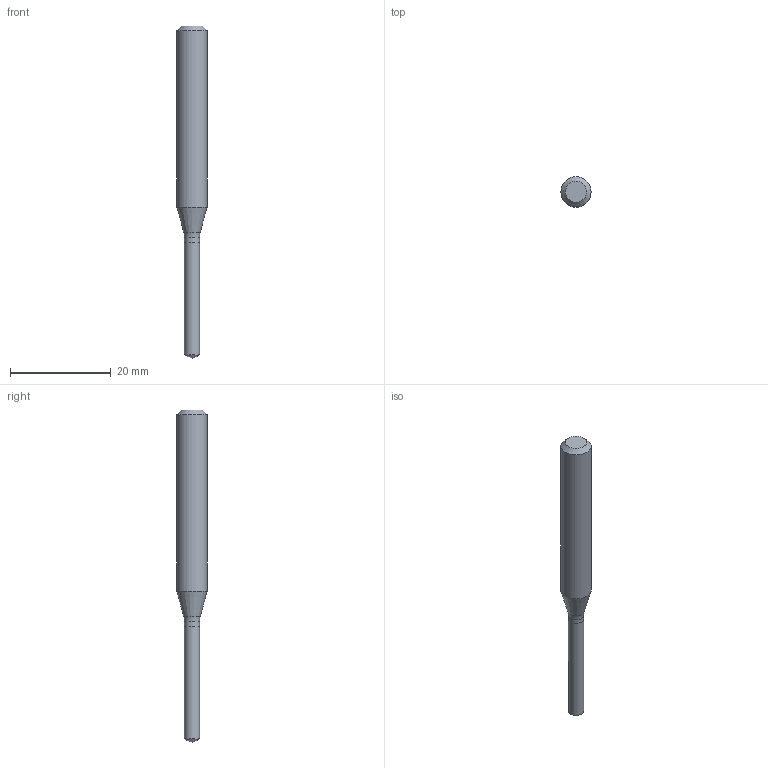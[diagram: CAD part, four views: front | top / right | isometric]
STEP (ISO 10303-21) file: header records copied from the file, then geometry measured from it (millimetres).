
FILE_DESCRIPTION(/* description */ (''),/* implementation_level */ '2;1');
FILE_NAME(/* name */ '60679901_cgr_000~02_214.stp',/* time_stamp */ '2022-02-03T08:48:14-05:00',/* author */ (''),/* organization */ (''),/* preprocessor_version */ 'ST-DEVELOPER v16.7',/* originating_system */ 'SIEMENS PLM Software NX 12.0',/* authorisation */ '');
FILE_SCHEMA (('AUTOMOTIVE_DESIGN { 1 0 10303 214 3 1 1 1 }'));
Length unit declared in the file: millimetre
Products named in the file (1): 60679901_cgr_000~02
Bounding box: 6 x 6 x 66 mm (x, y, z)
Volume: 1273.6 mm3; surface area: 1024.3 mm2
Topology: 2 solids, 2 shells, 11 faces, 26 edges, 27 vertices
Faces by surface type: cone 4, cylinder 3, plane 3, torus 1
Full cylindrical faces by diameter (mm): 3 x2, 6 x1
Entity records: 343 total; most frequent: DIRECTION 53, CARTESIAN_POINT 43, AXIS2_PLACEMENT_3D 24, EDGE_LOOP 18, ORIENTED_EDGE 18, FACE_BOUND 16, STYLED_ITEM 14, PRESENTATION_STYLE_ASSIGNMENT 14
